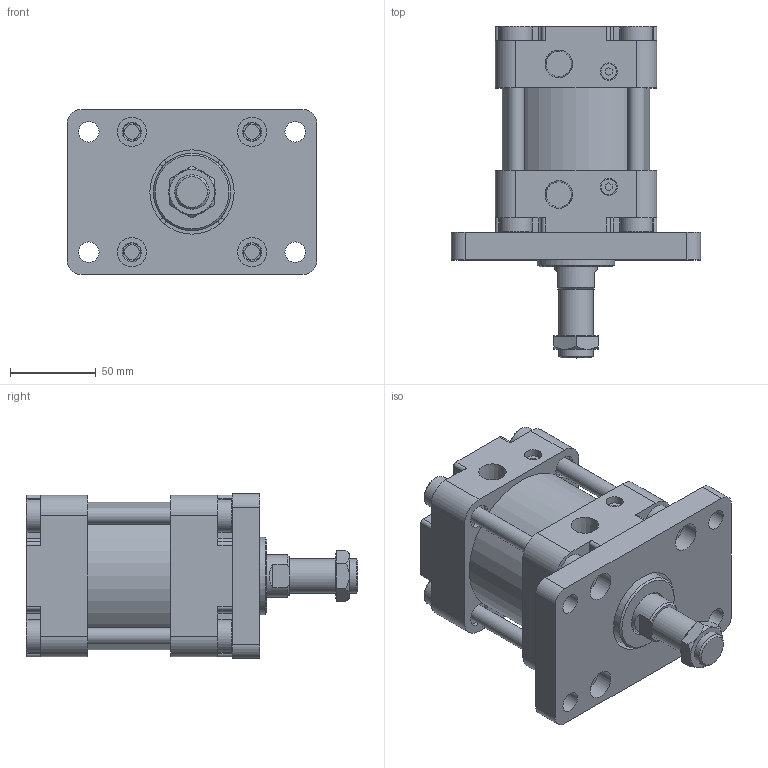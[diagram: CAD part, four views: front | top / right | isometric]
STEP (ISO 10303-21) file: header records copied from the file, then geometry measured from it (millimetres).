
FILE_DESCRIPTION(/* description */ ('Unknown'),/* implementation_level */ '2;1');
FILE_NAME(/* name */ 'WA80-0-FA',/* time_stamp */ '2026-07-17T16:55:40+08:00',/* author */ ('Unknown'),/* organization */ ('Unknown'),/* preprocessor_version */ 'ST-DEVELOPER v16.7',/* originating_system */ 'DEX',/* authorisation */ $);
FILE_SCHEMA (('CONFIG_CONTROL_DESIGN'));
Length unit declared in the file: millimetre
Products named in the file (8): WA80-0-FA; WA80_前; WA80_後; WA80_鋁; WA80_¤ß¶b¬¡æ´»å¡žçµ„; M20-1.5P-8_螺; WA80_T碪墮姊濈祫; WA80_FA
Assembly tree (10 placements, depth 2):
  WA80-0-FA
    WA80_前
    WA80_後
    WA80_鋁
    WA80_¤ß¶b¬¡æ´»å¡žçµ„
    M20-1.5P-8_螺
    WA80_T碪墮姊濈祫  x4
    WA80_FA
Bounding box: 145 x 193 x 96 mm (x, y, z)
Volume: 1043054.2 mm3; surface area: 208862.8 mm2
Topology: 10 solids, 10 shells, 396 faces, 960 edges, 637 vertices
Faces by surface type: plane 229, cylinder 136, cone 23, torus 8
Full cylindrical faces by diameter (mm): 8.5 x8, 9 x2, 10 x6, 11 x4, 12 x4, 14 x12, 14.2 x4, 17 x4, 18.376 x1, 19 x8, 20 x1, 25 x2, 26 x1, 45 x1, 49 x1, 79.5 x1, 80 x3, 86 x1
Entity records: 10706 total; most frequent: CARTESIAN_POINT 1596, DIRECTION 1538, ORIENTED_EDGE 1368, EDGE_CURVE 684, AXIS2_PLACEMENT_3D 574, VERTEX_POINT 484, EDGE_LOOP 420, FACE_BOUND 420
